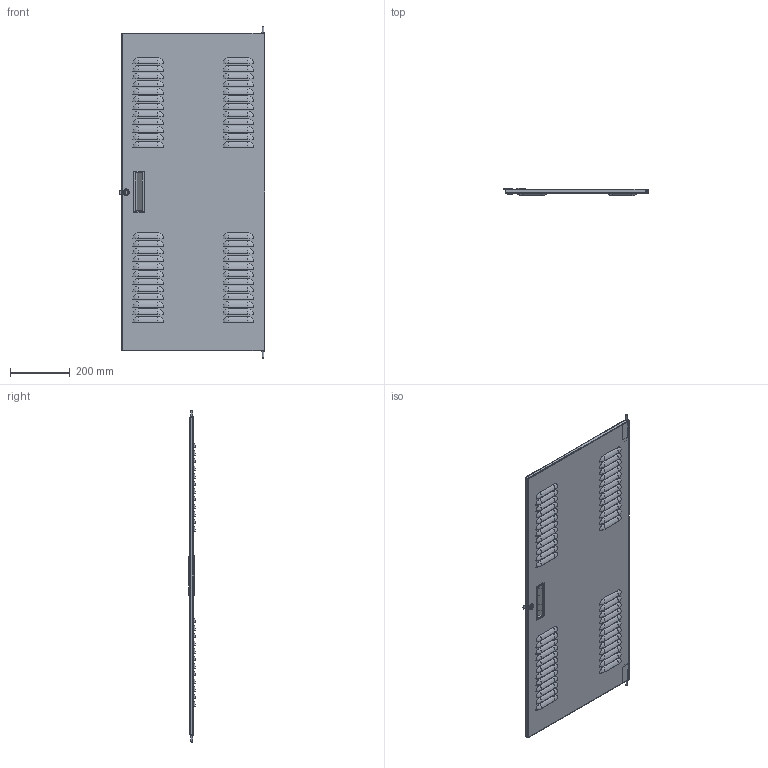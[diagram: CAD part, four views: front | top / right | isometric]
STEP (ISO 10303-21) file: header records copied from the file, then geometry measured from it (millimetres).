
FILE_DESCRIPTION(/* description */ ('Unknown'),/* implementation_level */ '2;1');
FILE_NAME(/* name */ 'RSDL19042BK1',/* time_stamp */ '2021-03-29T13:42:32-04:00',/* author */ ('Unknown'),/* organization */ ('Unknown'),/* preprocessor_version */ 'ST-DEVELOPER v16.7',/* originating_system */ 'Solid Edge',/* authorisation */ 'Unknown');
FILE_SCHEMA (('AUTOMOTIVE_DESIGN {1 0 10303 214 3 1 1}'));
Length unit declared in the file: millimetre
Products named in the file (7): RSDL19042; PIN17620; LOC13312; HAN13044; COM53666; HNG14581
Assembly tree (8 placements, depth 3):
  RSDL19042
    PIN17620  x2
    LOC13312
    HAN13044
    COM53666
      HNG14581  x2
      COM53666
Bounding box: 486.46 x 22.99 x 1108.35 mm (x, y, z)
Volume: 872219.8 mm3; surface area: 1200580.1 mm2
Topology: 7 solids, 7 shells, 604 faces, 1799 edges, 1028 vertices
Faces by surface type: plane 247, sphere 192, cylinder 150, cone 7, torus 4, bspline 4
Full cylindrical faces by diameter (mm): 5.182 x2, 6.35 x6, 8.382 x1, 13.868 x1, 13.97 x1, 21.996 x1
Entity records: 18573 total; most frequent: DIRECTION 3428, CARTESIAN_POINT 3301, ORIENTED_EDGE 3034, EDGE_CURVE 1517, AXIS2_PLACEMENT_3D 1352, VERTEX_POINT 977, CIRCLE 765, LINE 724
